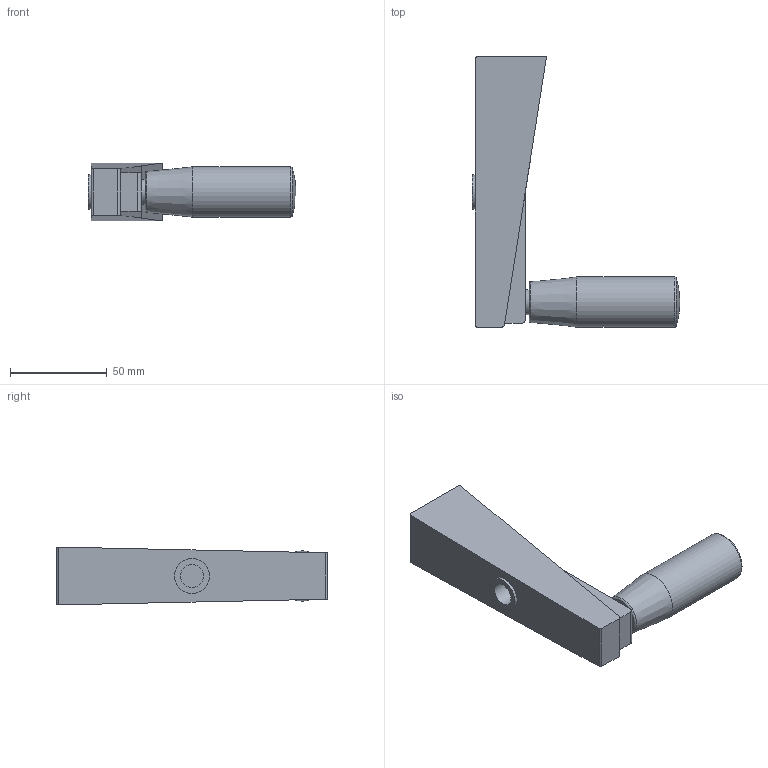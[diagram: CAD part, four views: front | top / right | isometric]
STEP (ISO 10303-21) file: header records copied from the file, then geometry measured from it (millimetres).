
FILE_DESCRIPTION( ( 'STEP AP203' ), '1' );
FILE_NAME( 'C:/Temp/Ganter_Step_05_03_2020/data/1_3/gn_510/Cranked handle GN 510-140-B12.stp', '2020-03-05T10:45:19', ( 'License CC BY-ND 4.0' ), ( 'CADENAS' ), ' ', 'PARTsolutions', ' ' );
FILE_SCHEMA( ( 'CONFIG_CONTROL_DESIGN' ) );
Length unit declared in the file: millimetre
Products named in the file (1): _Cranked handle GN 510-140-B12
Bounding box: 107.5 x 140 x 30 mm (x, y, z)
Volume: 144170.7 mm3; surface area: 24680.5 mm2
Topology: 1 solids, 1 shells, 28 faces, 67 edges, 44 vertices
Faces by surface type: plane 16, cylinder 8, torus 2, sphere 1, cone 1
Full cylindrical faces by diameter (mm): 12 x1, 13 x1, 18 x1, 26 x1
Entity records: 795 total; most frequent: DIRECTION 133, CARTESIAN_POINT 127, ORIENTED_EDGE 112, EDGE_CURVE 56, AXIS2_PLACEMENT_3D 48, VERTEX_POINT 42, EDGE_LOOP 39, LINE 37
